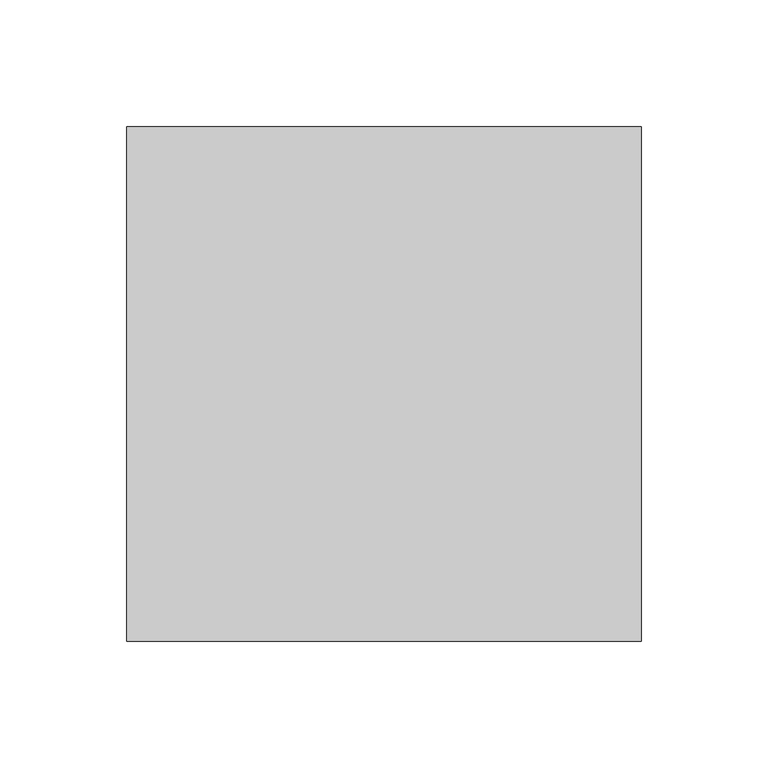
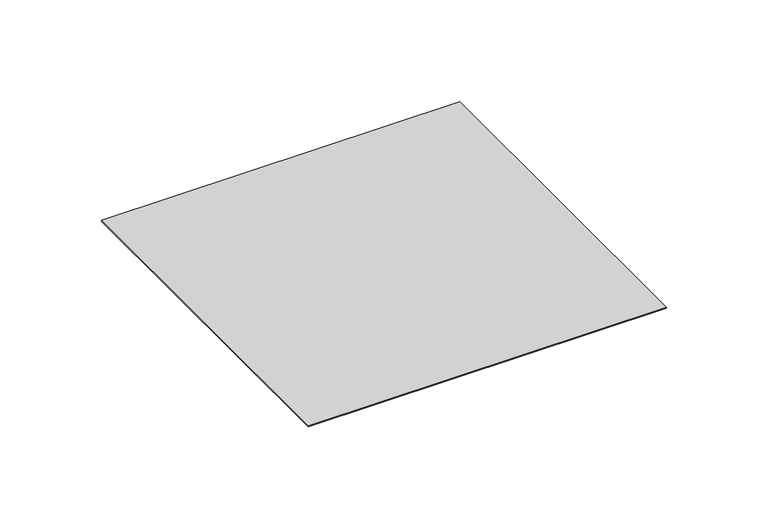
"""IFC4 building model written with IfcOpenShell, lengths in millimetres: proxy geometry, Loggia_Placeholder : Loggia Placeholder."""

from ifc_helpers import new_model, si_unit, origin, origin_with_axes, place, context, project, spatial, polyline, outline, extrude, source, transform, mapped, element, save


def generic_models_07b58aa4(model_context):
    return source(origin(), model_context, "Body", "SweptSolid", [
        extrude(outline(polyline([(-101.6, 101.6), (101.6, 101.6), (101.6, -101.6), (-101.6, -101.6), (-101.6, 101.6)])), origin_with_axes(), (0.0, 0.0, 1.0), 0.79375),
    ])


if __name__ == "__main__":
    model = new_model("IFC4")
    model_context = context("Model", 3, world=origin())
    ifc_project = project(units=[si_unit("LENGTHUNIT", "METRE", prefix="MILLI")], contexts=[model_context])
    site = spatial("IfcSite", under=ifc_project)
    building = spatial("IfcBuilding", under=site)
    placement = place(None, origin())
    generic_models_shape = generic_models_07b58aa4(model_context)
    element("IfcBuildingElementProxy", 1, Name="Loggia_Placeholder : Loggia Placeholder", ObjectType="Loggia_Placeholder : Loggia Placeholder", at=placement, inside=building, context=model_context, shape_type="MappedRepresentation", body=[
        mapped(generic_models_shape, transform((0.0, 0.0, 0.0), x_axis=(1.0, 0.0, 0.0), y_axis=(0.0, 1.0, 0.0), z_axis=(0.0, 0.0, 1.0))),
    ])
    save(model, "model.ifc")
